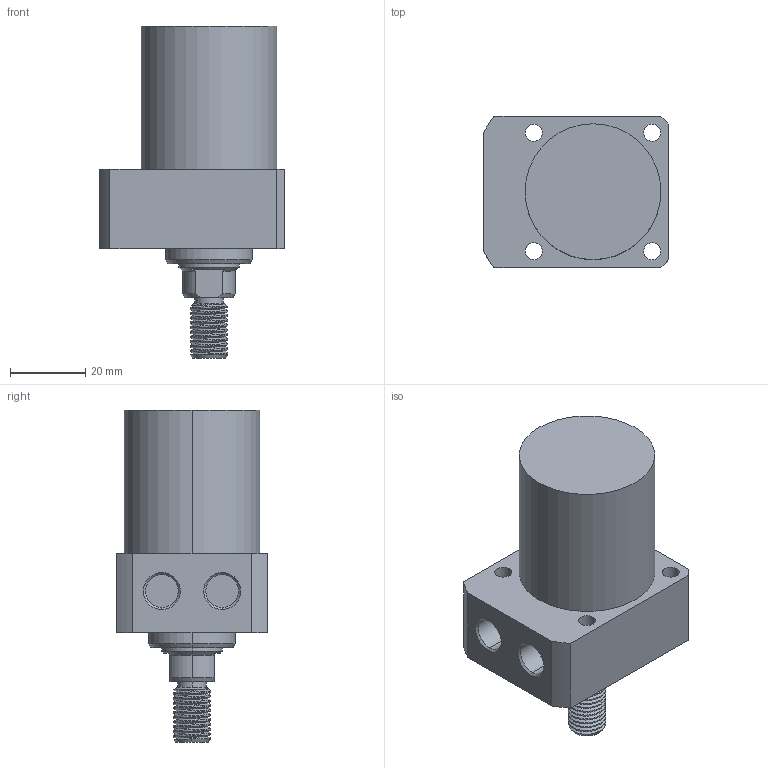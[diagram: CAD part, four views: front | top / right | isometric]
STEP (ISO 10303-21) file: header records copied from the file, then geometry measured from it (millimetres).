
FILE_DESCRIPTION (( 'STEP AP214' ), '1' );
FILE_NAME ('CLLR-036CT-030.STEP', '2020-01-08T10:19:10', ( 'Windows' ), ( 'Microsoft' ), 'SwSTEP 2.0', 'SolidWorks 2015', '' );
FILE_SCHEMA (( 'AUTOMOTIVE_DESIGN' ));
Length unit declared in the file: millimetre
Products named in the file (1): CLLR-036CT-030
Bounding box: 49 x 40 x 88 mm (x, y, z)
Volume: 80689 mm3; surface area: 14967 mm2
Topology: 1 solids, 1 shells, 89 faces, 223 edges, 144 vertices
Faces by surface type: cylinder 51, plane 21, cone 15, bspline 2
Entity records: 3968 total; most frequent: CARTESIAN_POINT 1834, ORIENTED_EDGE 446, DIRECTION 419, EDGE_CURVE 223, AXIS2_PLACEMENT_3D 164, VERTEX_POINT 144, EDGE_LOOP 105, VECTOR 91
